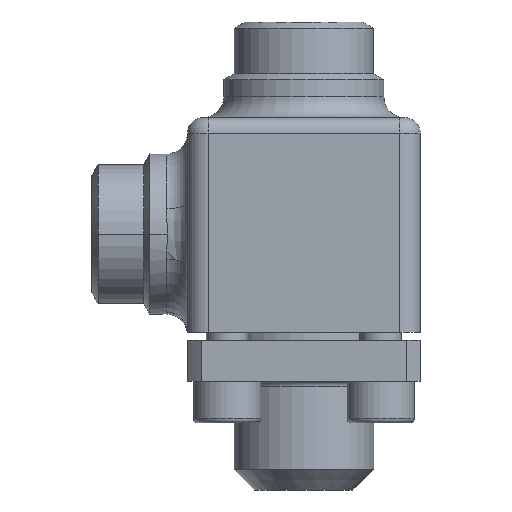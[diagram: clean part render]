
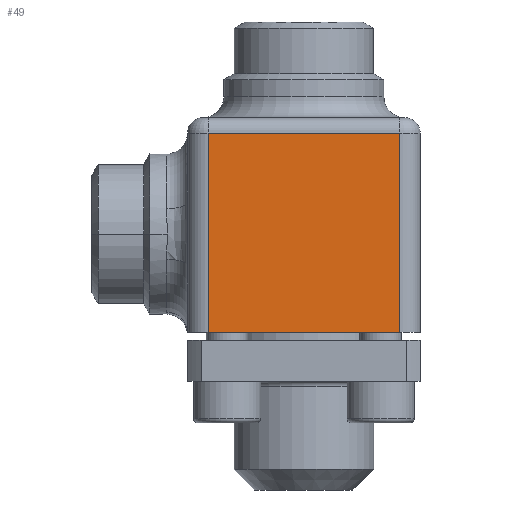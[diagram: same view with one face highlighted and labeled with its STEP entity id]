
A CAD part, front view. The second image highlights one B-rep face of the part: STEP entity #49.
In plain terms, the highlighted planar face has unit normal (0, -1, 0).
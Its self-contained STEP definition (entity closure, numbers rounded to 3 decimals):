
#34 = EDGE_LOOP ( 'NONE', ( #6619, #406, #335, #261 ) ) ;
#49 = ADVANCED_FACE ( 'NONE', ( #1162 ), #1163, .F. ) ;
#236 = EDGE_CURVE ( 'NONE', #294, #463, #4678, .T. ) ;
#261 = ORIENTED_EDGE ( 'NONE', *, *, #236, .T. ) ;
#294 = VERTEX_POINT ( 'NONE', #6009 ) ;
#306 = EDGE_CURVE ( 'NONE', #365, #294, #6213, .T. ) ;
#335 = ORIENTED_EDGE ( 'NONE', *, *, #306, .T. ) ;
#365 = VERTEX_POINT ( 'NONE', #1157 ) ;
#382 = EDGE_CURVE ( 'NONE', #438, #365, #1321, .T. ) ;
#406 = ORIENTED_EDGE ( 'NONE', *, *, #382, .T. ) ;
#438 = VERTEX_POINT ( 'NONE', #2701 ) ;
#463 = VERTEX_POINT ( 'NONE', #2929 ) ;
#476 = EDGE_CURVE ( 'NONE', #463, #438, #3044, .T. ) ;
#1157 = CARTESIAN_POINT ( 'NONE',  ( -18.5, -22.5, 38.5 ) ) ;
#1162 = FACE_OUTER_BOUND ( 'NONE', #34, .T. ) ;
#1163 = PLANE ( 'NONE',  #1164 ) ;
#1164 = AXIS2_PLACEMENT_3D ( 'NONE', #1165, #1166, #1167 ) ;
#1165 = CARTESIAN_POINT ( 'NONE',  ( -22.5, -22.5, 41.5 ) ) ;
#1166 = DIRECTION ( 'NONE',  ( 0., 1., 0. ) ) ;
#1167 = DIRECTION ( 'NONE',  ( -1., 0., 0. ) ) ;
#1321 = LINE ( 'NONE', #1322, #1323 ) ;
#1322 = CARTESIAN_POINT ( 'NONE',  ( -22.5, -22.5, 38.5 ) ) ;
#1323 = VECTOR ( 'NONE', #1324, 1000. ) ;
#1324 = DIRECTION ( 'NONE',  ( -1., 0., 0. ) ) ;
#2701 = CARTESIAN_POINT ( 'NONE',  ( 18.5, -22.5, 38.5 ) ) ;
#2929 = CARTESIAN_POINT ( 'NONE',  ( 18.5, -22.5, 0. ) ) ;
#3044 = LINE ( 'NONE', #3045, #3046 ) ;
#3045 = CARTESIAN_POINT ( 'NONE',  ( 18.5, -22.5, 41.5 ) ) ;
#3046 = VECTOR ( 'NONE', #3047, 1000. ) ;
#3047 = DIRECTION ( 'NONE',  ( 0., 0., 1. ) ) ;
#4678 = LINE ( 'NONE', #4679, #4680 ) ;
#4679 = CARTESIAN_POINT ( 'NONE',  ( -22.5, -22.5, 0. ) ) ;
#4680 = VECTOR ( 'NONE', #4681, 1000. ) ;
#4681 = DIRECTION ( 'NONE',  ( 1., 0., 0. ) ) ;
#6009 = CARTESIAN_POINT ( 'NONE',  ( -18.5, -22.5, 0. ) ) ;
#6213 = LINE ( 'NONE', #6214, #6215 ) ;
#6214 = CARTESIAN_POINT ( 'NONE',  ( -18.5, -22.5, 41.5 ) ) ;
#6215 = VECTOR ( 'NONE', #6216, 1000. ) ;
#6216 = DIRECTION ( 'NONE',  ( 0., 0., -1. ) ) ;
#6619 = ORIENTED_EDGE ( 'NONE', *, *, #476, .T. ) ;
